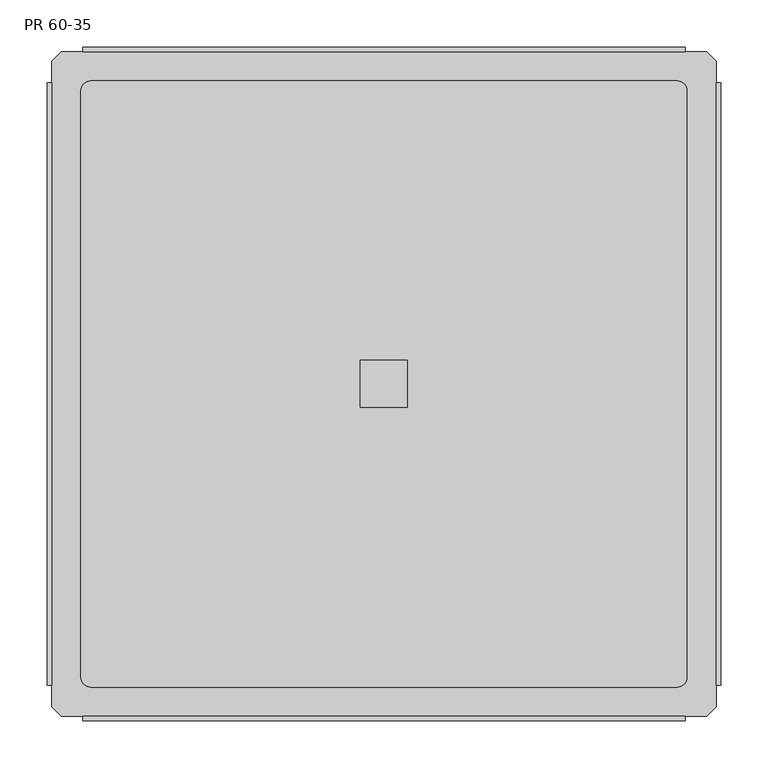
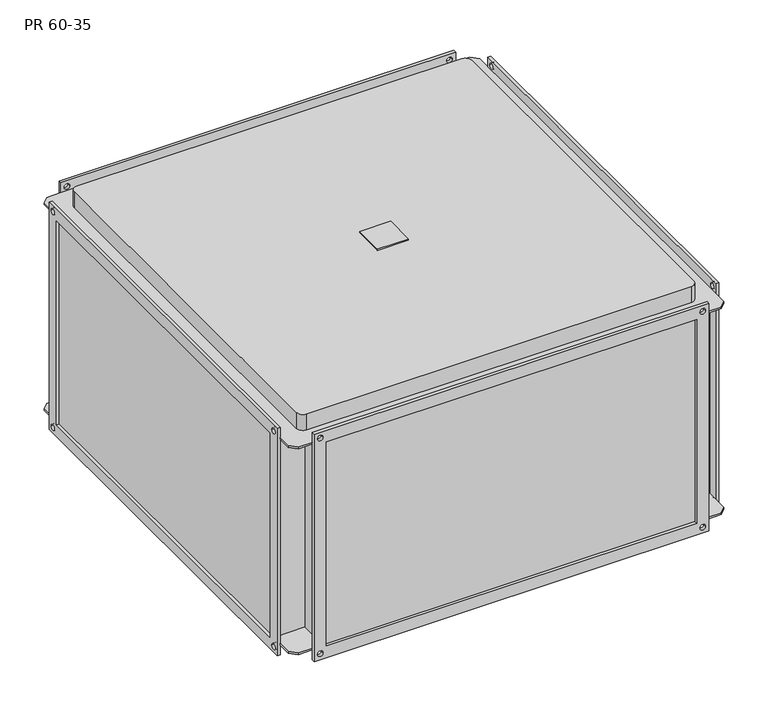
"""IFC4 building model written with IfcOpenShell, lengths in millimetres: proxy geometry, KORF_Рекуператор_Пластинчатый_PR : PR 60-35."""

from ifc_helpers import new_model, si_unit, point, frame, frame_2d, origin, place, context, project, spatial, polyline, circle_curve, trimmed, segment, composite_curve, outline, extrude, source, transform, mapped, element, save
from ifc_brep_helpers import plane_surface, cylinder_surface, revolved_surface, advanced_brep


def pr_60_35_5a58c514(model_context):
    return source(origin(), model_context, "Body", "SolidModel", [
        extrude(outline(polyline([(333.0, -25.0), (333.0, 25.0), (383.0, 25.0), (383.0, -25.0), (333.0, -25.0)])), frame((0.0, 0.0, 205.0), z_axis=(0.0, 0.0, 1.0), x_axis=(1.0, 0.0, 0.0)), (0.0, 0.0, 1.0), 2.0),
        advanced_brep(
        [(658.0, -353.0, -175.0), (658.0, -353.0, 175.0), (58.0, -353.0, 175.0), (58.0, -353.0, -175.0), (658.0, 353.0, 175.0), (658.0, 353.0, -175.0), (58.0, 353.0, -175.0), (58.0, 353.0, 175.0), (15.0, 353.0, 178.0), (5.0, 343.0, 178.0), (5.0, -343.0, 178.0), (15.0, -353.0, 178.0), (38.0, -353.0, 178.0), (678.0, -353.0, 178.0), (701.0, -353.0, 178.0), (711.0, -343.0, 178.0), (711.0, 343.0, 178.0), (701.0, 353.0, 178.0), (678.0, 353.0, 178.0), (38.0, 353.0, 178.0), (46.0, 322.0, 178.0), (670.0, 322.0, 178.0), (680.0, 312.0, 178.0), (680.0, -312.0, 178.0), (670.0, -322.0, 178.0), (46.0, -322.0, 178.0), (36.0, -312.0, 178.0), (36.0, 312.0, 178.0), (55.0, -353.0, 175.0), (55.0, -303.0, 175.0), (55.0, -303.0, -175.0), (55.0, -353.0, -175.0), (55.0, 303.0, 175.0), (55.0, 353.0, 175.0), (55.0, 353.0, -175.0), (55.0, 303.0, -175.0), (5.0, 343.0, -178.0), (15.0, 353.0, -178.0), (38.0, 353.0, -178.0), (678.0, 353.0, -178.0), (701.0, 353.0, -178.0), (711.0, 343.0, -178.0), (711.0, -343.0, -178.0), (701.0, -353.0, -178.0), (678.0, -353.0, -178.0), (38.0, -353.0, -178.0), (15.0, -353.0, -178.0), (5.0, -343.0, -178.0), (661.0, -303.0, 175.0), (661.0, -353.0, 175.0), (661.0, -353.0, -175.0), (661.0, -303.0, -175.0), (661.0, 353.0, 175.0), (661.0, 303.0, 175.0), (661.0, 303.0, -175.0), (661.0, 353.0, -175.0), (711.0, 303.0, 175.0), (711.0, 343.0, 175.0), (711.0, -343.0, 175.0), (711.0, -303.0, 175.0), (711.0, -303.0, -175.0), (711.0, -343.0, -175.0), (711.0, 343.0, -175.0), (711.0, 303.0, -175.0), (5.0, 343.0, 175.0), (5.0, 303.0, 175.0), (5.0, 303.0, -175.0), (5.0, 343.0, -175.0), (5.0, -343.0, -175.0), (5.0, -303.0, -175.0), (5.0, -303.0, 175.0), (5.0, -343.0, 175.0), (678.0, 358.0, 195.0), (678.0, 358.0, -195.0), (38.0, 358.0, -195.0), (38.0, 358.0, 195.0), (658.0, 358.0, 175.0), (58.0, 358.0, 175.0), (58.0, 358.0, -175.0), (658.0, 358.0, -175.0), (43.5, 358.0, 185.0), (52.5, 358.0, 185.0), (663.5, 358.0, 185.0), (672.5, 358.0, 185.0), (663.5, 358.0, -185.0), (672.5, 358.0, -185.0), (43.5, 358.0, -185.0), (52.5, 358.0, -185.0), (678.0, 353.0, 195.0), (38.0, 353.0, 195.0), (43.5, 353.0, 185.0), (52.5, 353.0, 185.0), (663.5, 353.0, 185.0), (672.5, 353.0, 185.0), (38.0, 353.0, -195.0), (678.0, 353.0, -195.0), (663.5, 353.0, -185.0), (672.5, 353.0, -185.0), (43.5, 353.0, -185.0), (52.5, 353.0, -185.0), (38.0, 353.0, 175.0), (38.0, 353.0, -175.0), (678.0, 353.0, 175.0), (678.0, 353.0, -175.0), (678.0, -358.0, 195.0), (38.0, -358.0, 195.0), (38.0, -358.0, -195.0), (678.0, -358.0, -195.0), (658.0, -358.0, 175.0), (658.0, -358.0, -175.0), (58.0, -358.0, -175.0), (58.0, -358.0, 175.0), (663.5, -358.0, 185.0), (672.5, -358.0, 185.0), (663.5, -358.0, -185.0), (672.5, -358.0, -185.0), (43.5, -358.0, 185.0), (52.5, -358.0, 185.0), (43.5, -358.0, -185.0), (52.5, -358.0, -185.0), (678.0, -353.0, -195.0), (38.0, -353.0, -195.0), (663.5, -353.0, -185.0), (672.5, -353.0, -185.0), (43.5, -353.0, -185.0), (52.5, -353.0, -185.0), (38.0, -353.0, 195.0), (678.0, -353.0, 195.0), (663.5, -353.0, 185.0), (672.5, -353.0, 185.0), (43.5, -353.0, 185.0), (52.5, -353.0, 185.0), (38.0, -353.0, 175.0), (38.0, -353.0, -175.0), (678.0, -353.0, 175.0), (678.0, -353.0, -175.0), (701.0, -353.0, 175.0), (15.0, 353.0, 175.0), (701.0, 353.0, 175.0), (15.0, -353.0, 175.0), (701.0, 353.0, -175.0), (15.0, -353.0, -175.0), (15.0, 353.0, -175.0), (701.0, -353.0, -175.0), (670.0, 322.0, 205.0), (46.0, 322.0, 205.0), (36.0, 312.0, 205.0), (36.0, -312.0, 205.0), (46.0, -322.0, 205.0), (670.0, -322.0, 205.0), (680.0, -312.0, 205.0), (680.0, 312.0, 205.0)],
        [
            (0, 1),
            (1, 2),
            (2, 3),
            (3, 0),
            (4, 5),
            (5, 6),
            (6, 7),
            (7, 4),
            (8, 9),
            (9, 10),
            (10, 11),
            (11, 12),
            (12, 13),
            (13, 14),
            (14, 15),
            (15, 16),
            (16, 17),
            (17, 18),
            (18, 19),
            (19, 8),
            (20, 21),
            (21, 22, circle_curve(frame((670.0, 312.0, 178.0), z_axis=(0.0, 0.0, -1.0), x_axis=(1.0, 0.0, 0.0)), 10.0)),
            (22, 23),
            (23, 24, circle_curve(frame((670.0, -312.0, 178.0), z_axis=(0.0, 0.0, -1.0), x_axis=(1.0, 0.0, 0.0)), 10.0)),
            (24, 25),
            (25, 26, circle_curve(frame((46.0, -312.0, 178.0), z_axis=(0.0, 0.0, -1.0), x_axis=(1.0, 0.0, 0.0)), 10.0)),
            (26, 27),
            (27, 20, circle_curve(frame((46.0, 312.0, 178.0), z_axis=(0.0, 0.0, -1.0), x_axis=(1.0, 0.0, 0.0)), 10.0)),
            (28, 29),
            (29, 30),
            (30, 31),
            (31, 28),
            (32, 33),
            (33, 34),
            (34, 35),
            (35, 32),
            (36, 37),
            (37, 38),
            (38, 39),
            (39, 40),
            (40, 41),
            (41, 42),
            (42, 43),
            (43, 44),
            (44, 45),
            (45, 46),
            (46, 47),
            (47, 36),
            (48, 49),
            (49, 50),
            (50, 51),
            (51, 48),
            (52, 53),
            (53, 54),
            (54, 55),
            (55, 52),
            (56, 57),
            (57, 16),
            (15, 58),
            (58, 59),
            (59, 60),
            (60, 61),
            (61, 42),
            (41, 62),
            (62, 63),
            (63, 56),
            (64, 65),
            (65, 66),
            (66, 67),
            (67, 36),
            (47, 68),
            (68, 69),
            (69, 70),
            (70, 71),
            (71, 10),
            (9, 64),
            (29, 70),
            (69, 30),
            (59, 48),
            (51, 60),
            (65, 32),
            (35, 66),
            (53, 56),
            (63, 54),
            (72, 73),
            (73, 74),
            (74, 75),
            (75, 72),
            (76, 77),
            (77, 78),
            (78, 79),
            (79, 76),
            (80, 81, circle_curve(frame((48.0, 358.0, 185.0), z_axis=(0.0, -1.0, 0.0), x_axis=(1.0, 0.0, 0.0)), 4.5)),
            (81, 80, circle_curve(frame((48.0, 358.0, 185.0), z_axis=(0.0, -1.0, 0.0), x_axis=(1.0, 0.0, 0.0)), 4.5)),
            (82, 83, circle_curve(frame((668.0, 358.0, 185.0), z_axis=(0.0, -1.0, 0.0), x_axis=(1.0, 0.0, 0.0)), 4.5)),
            (83, 82, circle_curve(frame((668.0, 358.0, 185.0), z_axis=(0.0, -1.0, 0.0), x_axis=(1.0, 0.0, 0.0)), 4.5)),
            (84, 85, circle_curve(frame((668.0, 358.0, -185.0), z_axis=(0.0, -1.0, 0.0), x_axis=(1.0, 0.0, 0.0)), 4.5)),
            (85, 84, circle_curve(frame((668.0, 358.0, -185.0), z_axis=(0.0, -1.0, 0.0), x_axis=(1.0, 0.0, 0.0)), 4.5)),
            (86, 87, circle_curve(frame((48.0, 358.0, -185.0), z_axis=(0.0, -1.0, 0.0), x_axis=(1.0, 0.0, 0.0)), 4.5)),
            (87, 86, circle_curve(frame((48.0, 358.0, -185.0), z_axis=(0.0, -1.0, 0.0), x_axis=(1.0, 0.0, 0.0)), 4.5)),
            (88, 89),
            (89, 19),
            (18, 88),
            (90, 91, circle_curve(frame((48.0, 353.0, 185.0), z_axis=(0.0, 1.0, 0.0), x_axis=(1.0, 0.0, 0.0)), 4.5)),
            (91, 90, circle_curve(frame((48.0, 353.0, 185.0), z_axis=(0.0, 1.0, 0.0), x_axis=(1.0, 0.0, 0.0)), 4.5)),
            (92, 93, circle_curve(frame((668.0, 353.0, 185.0), z_axis=(0.0, 1.0, 0.0), x_axis=(1.0, 0.0, 0.0)), 4.5)),
            (93, 92, circle_curve(frame((668.0, 353.0, 185.0), z_axis=(0.0, 1.0, 0.0), x_axis=(1.0, 0.0, 0.0)), 4.5)),
            (94, 95),
            (95, 39),
            (38, 94),
            (96, 97, circle_curve(frame((668.0, 353.0, -185.0), z_axis=(0.0, 1.0, 0.0), x_axis=(1.0, 0.0, 0.0)), 4.5)),
            (97, 96, circle_curve(frame((668.0, 353.0, -185.0), z_axis=(0.0, 1.0, 0.0), x_axis=(1.0, 0.0, 0.0)), 4.5)),
            (98, 99, circle_curve(frame((48.0, 353.0, -185.0), z_axis=(0.0, 1.0, 0.0), x_axis=(1.0, 0.0, 0.0)), 4.5)),
            (99, 98, circle_curve(frame((48.0, 353.0, -185.0), z_axis=(0.0, 1.0, 0.0), x_axis=(1.0, 0.0, 0.0)), 4.5)),
            (33, 100),
            (100, 101),
            (101, 34),
            (102, 52),
            (55, 103),
            (103, 102),
            (75, 89),
            (88, 72),
            (74, 94),
            (38, 101),
            (100, 19),
            (73, 95),
            (18, 102),
            (103, 39),
            (79, 5),
            (4, 76),
            (78, 6),
            (77, 7),
            (104, 105),
            (105, 106),
            (106, 107),
            (107, 104),
            (108, 109),
            (109, 110),
            (110, 111),
            (111, 108),
            (112, 113, circle_curve(frame((668.0, -358.0, 185.0), z_axis=(0.0, 1.0, 0.0), x_axis=(1.0, 0.0, 0.0)), 4.5)),
            (113, 112, circle_curve(frame((668.0, -358.0, 185.0), z_axis=(0.0, 1.0, 0.0), x_axis=(1.0, 0.0, 0.0)), 4.5)),
            (114, 115, circle_curve(frame((668.0, -358.0, -185.0), z_axis=(0.0, 1.0, 0.0), x_axis=(1.0, 0.0, 0.0)), 4.5)),
            (115, 114, circle_curve(frame((668.0, -358.0, -185.0), z_axis=(0.0, 1.0, 0.0), x_axis=(1.0, 0.0, 0.0)), 4.5)),
            (116, 117, circle_curve(frame((48.0, -358.0, 185.0), z_axis=(0.0, 1.0, 0.0), x_axis=(1.0, 0.0, 0.0)), 4.5)),
            (117, 116, circle_curve(frame((48.0, -358.0, 185.0), z_axis=(0.0, 1.0, 0.0), x_axis=(1.0, 0.0, 0.0)), 4.5)),
            (118, 119, circle_curve(frame((48.0, -358.0, -185.0), z_axis=(0.0, 1.0, 0.0), x_axis=(1.0, 0.0, 0.0)), 4.5)),
            (119, 118, circle_curve(frame((48.0, -358.0, -185.0), z_axis=(0.0, 1.0, 0.0), x_axis=(1.0, 0.0, 0.0)), 4.5)),
            (120, 121),
            (121, 45),
            (44, 120),
            (122, 123, circle_curve(frame((668.0, -353.0, -185.0), z_axis=(0.0, -1.0, 0.0), x_axis=(1.0, 0.0, 0.0)), 4.5)),
            (123, 122, circle_curve(frame((668.0, -353.0, -185.0), z_axis=(0.0, -1.0, 0.0), x_axis=(1.0, 0.0, 0.0)), 4.5)),
            (124, 125, circle_curve(frame((48.0, -353.0, -185.0), z_axis=(0.0, -1.0, 0.0), x_axis=(1.0, 0.0, 0.0)), 4.5)),
            (125, 124, circle_curve(frame((48.0, -353.0, -185.0), z_axis=(0.0, -1.0, 0.0), x_axis=(1.0, 0.0, 0.0)), 4.5)),
            (126, 127),
            (127, 13),
            (12, 126),
            (128, 129, circle_curve(frame((668.0, -353.0, 185.0), z_axis=(0.0, -1.0, 0.0), x_axis=(1.0, 0.0, 0.0)), 4.5)),
            (129, 128, circle_curve(frame((668.0, -353.0, 185.0), z_axis=(0.0, -1.0, 0.0), x_axis=(1.0, 0.0, 0.0)), 4.5)),
            (130, 131, circle_curve(frame((48.0, -353.0, 185.0), z_axis=(0.0, -1.0, 0.0), x_axis=(1.0, 0.0, 0.0)), 4.5)),
            (131, 130, circle_curve(frame((48.0, -353.0, 185.0), z_axis=(0.0, -1.0, 0.0), x_axis=(1.0, 0.0, 0.0)), 4.5)),
            (132, 28),
            (31, 133),
            (133, 132),
            (49, 134),
            (134, 135),
            (135, 50),
            (104, 127),
            (126, 105),
            (12, 132),
            (133, 45),
            (121, 106),
            (120, 107),
            (44, 135),
            (134, 13),
            (108, 1),
            (0, 109),
            (3, 110),
            (2, 111),
            (81, 91),
            (90, 80),
            (83, 93),
            (92, 82),
            (85, 97),
            (96, 84),
            (87, 99),
            (98, 86),
            (112, 128),
            (129, 113),
            (114, 122),
            (123, 115),
            (116, 130),
            (131, 117),
            (118, 124),
            (125, 119),
            (58, 136),
            (136, 134),
            (64, 137),
            (137, 100),
            (138, 57),
            (102, 138),
            (139, 71),
            (132, 139),
            (137, 8),
            (138, 17),
            (139, 11),
            (136, 14),
            (62, 140),
            (140, 103),
            (68, 141),
            (141, 133),
            (142, 67),
            (101, 142),
            (143, 61),
            (135, 143),
            (37, 142),
            (40, 140),
            (46, 141),
            (43, 143),
            (144, 145),
            (145, 146, circle_curve(frame((46.0, 312.0, 205.0), z_axis=(0.0, 0.0, 1.0), x_axis=(1.0, 0.0, 0.0)), 10.0)),
            (146, 147),
            (147, 148, circle_curve(frame((46.0, -312.0, 205.0), z_axis=(0.0, 0.0, 1.0), x_axis=(1.0, 0.0, 0.0)), 10.0)),
            (148, 149),
            (149, 150, circle_curve(frame((670.0, -312.0, 205.0), z_axis=(0.0, 0.0, 1.0), x_axis=(1.0, 0.0, 0.0)), 10.0)),
            (150, 151),
            (151, 144, circle_curve(frame((670.0, 312.0, 205.0), z_axis=(0.0, 0.0, 1.0), x_axis=(1.0, 0.0, 0.0)), 10.0)),
            (144, 21),
            (20, 145),
            (27, 146),
            (26, 147),
            (25, 148),
            (24, 149),
            (23, 150),
            (22, 151),
        ],
        [
            plane_surface(frame((55.0, -353.0, 178.0), z_axis=(0.0, -1.0, 0.0), x_axis=(-1.0, 0.0, 0.0))),
            plane_surface(frame((55.0, 353.0, 178.0), z_axis=(0.0, 1.0, 0.0), x_axis=(1.0, 0.0, 0.0))),
            plane_surface(frame((661.0, -353.0, 178.0), z_axis=(0.0, 0.0, 1.0), x_axis=(0.0, 1.0, 0.0))),
            plane_surface(frame((55.0, -353.0, 178.0), z_axis=(-1.0, 0.0, 0.0), x_axis=(0.0, 1.0, 0.0))),
            plane_surface(frame((55.0, -353.0, -178.0), z_axis=(0.0, 0.0, -1.0), x_axis=(0.0, 1.0, 0.0))),
            plane_surface(frame((661.0, -353.0, -178.0), z_axis=(1.0, 0.0, 0.0), x_axis=(0.0, 1.0, 0.0))),
            plane_surface(frame((711.0, -303.0, 178.0), z_axis=(1.0, 0.0, 0.0), x_axis=(0.0, 0.0, -1.0))),
            plane_surface(frame((5.0, -303.0, 178.0), z_axis=(-1.0, 0.0, 0.0), x_axis=(0.0, 0.0, 1.0))),
            plane_surface(frame((711.0, -303.0, 178.0), z_axis=(0.0, -1.0, 0.0), x_axis=(-1.0, 0.0, 0.0))),
            plane_surface(frame((711.0, 303.0, -178.0), z_axis=(0.0, 1.0, 0.0), x_axis=(-1.0, 0.0, 0.0))),
            plane_surface(frame((38.0, 358.0, 195.0), z_axis=(0.0, 1.0, 0.0), x_axis=(1.0, 0.0, 0.0))),
            plane_surface(frame((38.0, 353.0, 195.0), z_axis=(0.0, -1.0, 0.0), x_axis=(-1.0, 0.0, 0.0))),
            plane_surface(frame((678.0, 353.0, 195.0), z_axis=(0.0, 0.0, 1.0), x_axis=(0.0, 1.0, 0.0))),
            plane_surface(frame((38.0, 353.0, 195.0), z_axis=(-1.0, 0.0, 0.0), x_axis=(0.0, 1.0, 0.0))),
            plane_surface(frame((38.0, 353.0, -195.0), z_axis=(0.0, 0.0, -1.0), x_axis=(0.0, 1.0, 0.0))),
            plane_surface(frame((678.0, 353.0, -195.0), z_axis=(1.0, 0.0, 0.0), x_axis=(0.0, 1.0, 0.0))),
            plane_surface(frame((658.0, 353.0, 175.0), z_axis=(-1.0, 0.0, 0.0), x_axis=(0.0, 1.0, 0.0))),
            plane_surface(frame((658.0, 353.0, -175.0), z_axis=(0.0, 0.0, 1.0), x_axis=(0.0, 1.0, 0.0))),
            plane_surface(frame((58.0, 353.0, -175.0), z_axis=(1.0, 0.0, 0.0), x_axis=(0.0, 1.0, 0.0))),
            plane_surface(frame((58.0, 353.0, 175.0), z_axis=(0.0, 0.0, -1.0), x_axis=(0.0, 1.0, 0.0))),
            plane_surface(frame((38.0, -358.0, 195.0), z_axis=(0.0, -1.0, 0.0), x_axis=(-1.0, 0.0, 0.0))),
            plane_surface(frame((38.0, -353.0, 195.0), z_axis=(0.0, 1.0, 0.0), x_axis=(1.0, 0.0, 0.0))),
            plane_surface(frame((678.0, -358.0, 195.0), z_axis=(0.0, 0.0, 1.0), x_axis=(0.0, 1.0, 0.0))),
            plane_surface(frame((38.0, -358.0, 195.0), z_axis=(-1.0, 0.0, 0.0), x_axis=(0.0, 1.0, 0.0))),
            plane_surface(frame((38.0, -358.0, -195.0), z_axis=(0.0, 0.0, -1.0), x_axis=(0.0, 1.0, 0.0))),
            plane_surface(frame((678.0, -358.0, -195.0), z_axis=(1.0, 0.0, 0.0), x_axis=(0.0, 1.0, 0.0))),
            plane_surface(frame((658.0, -358.0, 175.0), z_axis=(-1.0, 0.0, 0.0), x_axis=(0.0, 1.0, 0.0))),
            plane_surface(frame((658.0, -358.0, -175.0), z_axis=(0.0, 0.0, 1.0), x_axis=(0.0, 1.0, 0.0))),
            plane_surface(frame((58.0, -358.0, -175.0), z_axis=(1.0, 0.0, 0.0), x_axis=(0.0, 1.0, 0.0))),
            plane_surface(frame((58.0, -358.0, 175.0), z_axis=(0.0, 0.0, -1.0), x_axis=(0.0, 1.0, 0.0))),
            revolved_surface(polyline([(52.5, 358.0, 185.0), (52.5, 353.0, 185.0)]), (48.0, 0.0, 185.0), (0.0, 1.0, 0.0)),
            revolved_surface(polyline([(672.5, 358.0, 185.0), (672.5, 353.0, 185.0)]), (668.0, 0.0, 185.0), (0.0, 1.0, 0.0)),
            revolved_surface(polyline([(672.5, 358.0, -185.0), (672.5, 353.0, -185.0)]), (668.0, 0.0, -185.0), (0.0, 1.0, 0.0)),
            revolved_surface(polyline([(52.5, 358.0, -185.0), (52.5, 353.0, -185.0)]), (48.0, 0.0, -185.0), (0.0, 1.0, 0.0)),
            revolved_surface(polyline([(672.5, -353.0, 185.0), (672.5, -358.0, 185.0)]), (668.0, 0.0, 185.0), (0.0, 1.0, 0.0)),
            revolved_surface(polyline([(672.5, -353.0, -185.0), (672.5, -358.0, -185.0)]), (668.0, 0.0, -185.0), (0.0, 1.0, 0.0)),
            revolved_surface(polyline([(52.5, -353.0, 185.0), (52.5, -358.0, 185.0)]), (48.0, 0.0, 185.0), (0.0, 1.0, 0.0)),
            revolved_surface(polyline([(52.5, -353.0, -185.0), (52.5, -358.0, -185.0)]), (48.0, 0.0, -185.0), (0.0, 1.0, 0.0)),
            plane_surface(frame((55.0, 303.0, 175.0), z_axis=(0.0, 0.0, -1.0), x_axis=(0.0, -1.0, 0.0))),
            plane_surface(frame((55.0, 353.0, 178.0), z_axis=(0.0, 1.0, 0.0), x_axis=(0.0, 0.0, -1.0))),
            plane_surface(frame((15.0, 353.0, 178.0), z_axis=(-0.7071067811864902, 0.707106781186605, 0.0), x_axis=(0.0, 0.0, -1.0))),
            plane_surface(frame((711.0, 343.0, 178.0), z_axis=(0.7071067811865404, 0.7071067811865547, 0.0), x_axis=(0.0, 0.0, -1.0))),
            plane_surface(frame((701.0, 353.0, 178.0), z_axis=(0.0, 1.0, 0.0), x_axis=(0.0, 0.0, -1.0))),
            plane_surface(frame((5.0, -343.0, 178.0), z_axis=(-0.7071067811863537, -0.7071067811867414, 0.0), x_axis=(0.0, 0.0, -1.0))),
            plane_surface(frame((15.0, -353.0, 178.0), z_axis=(0.0, -1.0, 0.0), x_axis=(0.0, 0.0, -1.0))),
            plane_surface(frame((661.0, -353.0, 178.0), z_axis=(0.0, -1.0, 0.0), x_axis=(0.0, 0.0, -1.0))),
            plane_surface(frame((701.0, -353.0, 178.0), z_axis=(0.707106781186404, -0.7071067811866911, 0.0), x_axis=(0.0, 0.0, -1.0))),
            plane_surface(frame((55.0, 303.0, -175.0), z_axis=(0.0, 0.0, 1.0), x_axis=(0.0, 1.0, 0.0))),
            plane_surface(frame((55.0, 353.0, -175.0), z_axis=(0.0, 1.0, 0.0), x_axis=(0.0, 0.0, -1.0))),
            plane_surface(frame((15.0, 353.0, -175.0), z_axis=(-0.7071067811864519, 0.7071067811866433, 0.0), x_axis=(0.0, 0.0, -1.0))),
            plane_surface(frame((711.0, 343.0, -175.0), z_axis=(0.7071067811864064, 0.7071067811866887, 0.0), x_axis=(0.0, 0.0, -1.0))),
            plane_surface(frame((701.0, 353.0, -175.0), z_axis=(0.0, 1.0, 0.0), x_axis=(0.0, 0.0, -1.0))),
            plane_surface(frame((5.0, -343.0, -175.0), z_axis=(-0.7071067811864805, -0.7071067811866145, 0.0), x_axis=(0.0, 0.0, -1.0))),
            plane_surface(frame((15.0, -353.0, -175.0), z_axis=(0.0, -1.0, 0.0), x_axis=(0.0, 0.0, -1.0))),
            plane_surface(frame((661.0, -353.0, -175.0), z_axis=(0.0, -1.0, 0.0), x_axis=(0.0, 0.0, -1.0))),
            plane_surface(frame((701.0, -353.0, -175.0), z_axis=(0.7071067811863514, -0.7071067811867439, 0.0), x_axis=(0.0, 0.0, -1.0))),
            plane_surface(frame((46.0, 322.0, 205.0), z_axis=(0.0, 0.0, 1.0), x_axis=(-1.0, 0.0, 0.0))),
            plane_surface(frame((670.0, 322.0, 205.0), z_axis=(0.0, 1.0, 0.0), x_axis=(0.0, 0.0, -1.0))),
            cylinder_surface(frame((46.0, 312.0, 178.0), z_axis=(0.0, 0.0, 1.0), x_axis=(1.0, 0.0, 0.0)), 10.0),
            plane_surface(frame((36.0, 312.0, 205.0), z_axis=(-1.0, 0.0, 0.0), x_axis=(0.0, 0.0, -1.0))),
            cylinder_surface(frame((46.0, -312.0, 178.0), z_axis=(0.0, 0.0, 1.0), x_axis=(1.0, 0.0, 0.0)), 10.0),
            plane_surface(frame((46.0, -322.0, 205.0), z_axis=(0.0, -1.0, 0.0), x_axis=(0.0, 0.0, -1.0))),
            cylinder_surface(frame((670.0, -312.0, 178.0), z_axis=(0.0, 0.0, 1.0), x_axis=(1.0, 0.0, 0.0)), 10.0),
            plane_surface(frame((680.0, -312.0, 205.0), z_axis=(1.0, 0.0, 0.0), x_axis=(0.0, 0.0, -1.0))),
            cylinder_surface(frame((670.0, 312.0, 178.0), z_axis=(0.0, 0.0, 1.0), x_axis=(1.0, 0.0, 0.0)), 10.0),
        ],
        [
            (0, [[1, 2, 3, 4]]),
            (1, [[5, 6, 7, 8]]),
            (2, [[9, 10, 11, 12, 13, 14, 15, 16, 17, 18, 19, 20], [21, 22, 23, 24, 25, 26, 27, 28]]),
            (3, [[29, 30, 31, 32]]),
            (3, [[33, 34, 35, 36]]),
            (4, [[37, 38, 39, 40, 41, 42, 43, 44, 45, 46, 47, 48]]),
            (5, [[49, 50, 51, 52]]),
            (5, [[53, 54, 55, 56]]),
            (6, [[57, 58, -16, 59, 60, 61, 62, 63, -42, 64, 65, 66]]),
            (7, [[67, 68, 69, 70, -48, 71, 72, 73, 74, 75, -10, 76]]),
            (8, [[77, -73, 78, -30]]),
            (8, [[79, -52, 80, -61]]),
            (9, [[81, -36, 82, -68]]),
            (9, [[83, -66, 84, -54]]),
            (10, [[85, 86, 87, 88], [89, 90, 91, 92], [93, 94], [95, 96], [97, 98], [99, 100]]),
            (11, [[101, 102, -19, 103], [104, 105], [106, 107]]),
            (11, [[108, 109, -39, 110], [111, 112], [113, 114]]),
            (11, [[115, 116, 117, -34]]),
            (11, [[118, -56, 119, 120]]),
            (12, [[-88, 121, -101, 122]]),
            (13, [[-87, 123, -110, 124, -116, 125, -102, -121]]),
            (14, [[-86, 126, -108, -123]]),
            (15, [[-85, -122, -103, 127, -120, 128, -109, -126]]),
            (16, [[-92, 129, -5, 130]]),
            (17, [[-91, 131, -6, -129]]),
            (18, [[-90, 132, -7, -131]]),
            (19, [[-89, -130, -8, -132]]),
            (20, [[133, 134, 135, 136], [137, 138, 139, 140], [141, 142], [143, 144], [145, 146], [147, 148]]),
            (21, [[149, 150, -45, 151], [152, 153], [154, 155]]),
            (21, [[156, 157, -13, 158], [159, 160], [161, 162]]),
            (21, [[163, -32, 164, 165]]),
            (21, [[166, 167, 168, -50]]),
            (22, [[-133, 169, -156, 170]]),
            (23, [[-134, -170, -158, 171, -165, 172, -150, 173]]),
            (24, [[-135, -173, -149, 174]]),
            (25, [[-136, -174, -151, 175, -167, 176, -157, -169]]),
            (26, [[-137, 177, -1, 178]]),
            (27, [[-138, -178, -4, 179]]),
            (28, [[-139, -179, -3, 180]]),
            (29, [[-140, -180, -2, -177]]),
            (30, [[-94, 181, -104, 182]]),
            (30, [[-93, -182, -105, -181]]),
            (31, [[-96, 183, -106, 184]]),
            (31, [[-95, -184, -107, -183]]),
            (32, [[-98, 185, -111, 186]]),
            (32, [[-97, -186, -112, -185]]),
            (33, [[-100, 187, -113, 188]]),
            (33, [[-99, -188, -114, -187]]),
            (34, [[-141, 189, -160, 190]]),
            (34, [[-142, -190, -159, -189]]),
            (35, [[-143, 191, -153, 192]]),
            (35, [[-144, -192, -152, -191]]),
            (36, [[-145, 193, -162, 194]]),
            (36, [[-146, -194, -161, -193]]),
            (37, [[-147, 195, -155, 196]]),
            (37, [[-148, -196, -154, -195]]),
            (38, [[-60, 197, 198, -166, -49, -79]]),
            (38, [[-67, 199, 200, -115, -33, -81]]),
            (38, [[201, -57, -83, -53, -118, 202]]),
            (38, [[203, -74, -77, -29, -163, 204]]),
            (39, [[205, -20, -125, -200]]),
            (40, [[-199, -76, -9, -205]]),
            (41, [[-201, 206, -17, -58]]),
            (42, [[-206, -202, -127, -18]]),
            (43, [[-203, 207, -11, -75]]),
            (44, [[-207, -204, -171, -12]]),
            (45, [[208, -14, -176, -198]]),
            (46, [[-197, -59, -15, -208]]),
            (47, [[-65, 209, 210, -119, -55, -84]]),
            (47, [[-72, 211, 212, -164, -31, -78]]),
            (47, [[213, -69, -82, -35, -117, 214]]),
            (47, [[215, -62, -80, -51, -168, 216]]),
            (48, [[217, -214, -124, -38]]),
            (49, [[-213, -217, -37, -70]]),
            (50, [[-209, -64, -41, 218]]),
            (51, [[-218, -40, -128, -210]]),
            (52, [[-211, -71, -47, 219]]),
            (53, [[-219, -46, -172, -212]]),
            (54, [[220, -216, -175, -44]]),
            (55, [[-215, -220, -43, -63]]),
            (56, [[221, 222, 223, 224, 225, 226, 227, 228]]),
            (57, [[-221, 229, -21, 230]]),
            (58, [[-222, -230, -28, 231]]),
            (59, [[-223, -231, -27, 232]]),
            (60, [[-224, -232, -26, 233]]),
            (61, [[-225, -233, -25, 234]]),
            (62, [[-226, -234, -24, 235]]),
            (63, [[-227, -235, -23, 236]]),
            (64, [[-228, -236, -22, -229]]),
        ],
    ),
        extrude(outline(polyline([(-320.0, 195.0), (320.0, 195.0), (320.0, -195.0), (-320.0, -195.0), (-320.0, 195.0)]), holes=[polyline([(-300.0, 175.0), (-300.0, -175.0), (300.0, -175.0), (300.0, 175.0), (-300.0, 175.0)]), composite_curve([segment(trimmed(circle_curve(frame_2d((310.0, 185.0)), 4.5), [point((305.5, 185.0))], [point((314.5, 185.0))], True, "CARTESIAN"), True, "CONTINUOUS"), segment(trimmed(circle_curve(frame_2d((310.0, 185.0)), 4.5), [point((314.5, 185.0))], [point((305.5, 185.0))], True, "CARTESIAN"), True, "CONTINUOUS")], self_intersect=False), composite_curve([segment(trimmed(circle_curve(frame_2d((-310.0, 185.0)), 4.5), [point((-314.5, 185.0))], [point((-305.5, 185.0))], True, "CARTESIAN"), True, "CONTINUOUS"), segment(trimmed(circle_curve(frame_2d((-310.0, 185.0)), 4.5), [point((-305.5, 185.0))], [point((-314.5, 185.0))], True, "CARTESIAN"), True, "CONTINUOUS")], self_intersect=False), composite_curve([segment(trimmed(circle_curve(frame_2d((-310.0, -185.0)), 4.5), [point((-314.5, -185.0))], [point((-305.5, -185.0))], True, "CARTESIAN"), True, "CONTINUOUS"), segment(trimmed(circle_curve(frame_2d((-310.0, -185.0)), 4.5), [point((-305.5, -185.0))], [point((-314.5, -185.0))], True, "CARTESIAN"), True, "CONTINUOUS")], self_intersect=False), composite_curve([segment(trimmed(circle_curve(frame_2d((310.0, -185.0)), 4.5), [point((305.5, -185.0))], [point((314.5, -185.0))], True, "CARTESIAN"), True, "CONTINUOUS"), segment(trimmed(circle_curve(frame_2d((310.0, -185.0)), 4.5), [point((314.5, -185.0))], [point((305.5, -185.0))], True, "CARTESIAN"), True, "CONTINUOUS")], self_intersect=False)]), frame((711.0, 0.0, 0.0), z_axis=(1.0, 0.0, 0.0), x_axis=(0.0, 1.0, 0.0)), (0.0, 0.0, 1.0), 5.0),
        advanced_brep(
        [(0.0, -320.0, 195.0), (0.0, 320.0, 195.0), (0.0, 320.0, -195.0), (0.0, -320.0, -195.0), (0.0, -300.0, 175.0), (0.0, -300.0, -175.0), (0.0, 300.0, -175.0), (0.0, 300.0, 175.0), (0.0, 305.5, 185.0), (0.0, 314.5, 185.0), (0.0, -314.5, 185.0), (0.0, -305.5, 185.0), (0.0, -314.5, -185.0), (0.0, -305.5, -185.0), (0.0, 305.5, -185.0), (0.0, 314.5, -185.0), (5.0, -320.0, 195.0), (5.0, -320.0, -195.0), (5.0, 320.0, -195.0), (5.0, 320.0, 195.0), (5.0, 314.5, 185.0), (5.0, 305.5, 185.0), (5.0, -305.5, 185.0), (5.0, -314.5, 185.0), (5.0, -305.5, -185.0), (5.0, -314.5, -185.0), (5.0, 314.5, -185.0), (5.0, 305.5, -185.0), (5.0, -300.0, -175.0), (5.0, -300.0, 175.0), (5.0, 300.0, 175.0), (5.0, 300.0, -175.0), (5.0, 300.0, 175.0), (5.0, -300.0, 175.0), (5.0, 300.0, -175.0), (5.0, -300.0, -175.0), (711.0, -300.0, 175.0), (711.0, -300.0, -175.0), (711.0, 300.0, 175.0), (711.0, 300.0, -175.0)],
        [
            (0, 1),
            (1, 2),
            (2, 3),
            (3, 0),
            (4, 5),
            (5, 6),
            (6, 7),
            (7, 4),
            (8, 9, circle_curve(frame((0.0, 310.0, 185.0), z_axis=(1.0, 0.0, 0.0), x_axis=(0.0, 1.0, 0.0)), 4.5)),
            (9, 8, circle_curve(frame((0.0, 310.0, 185.0), z_axis=(1.0, 0.0, 0.0), x_axis=(0.0, 1.0, 0.0)), 4.5)),
            (10, 11, circle_curve(frame((0.0, -310.0, 185.0), z_axis=(1.0, 0.0, 0.0), x_axis=(0.0, 1.0, 0.0)), 4.5)),
            (11, 10, circle_curve(frame((0.0, -310.0, 185.0), z_axis=(1.0, 0.0, 0.0), x_axis=(0.0, 1.0, 0.0)), 4.5)),
            (12, 13, circle_curve(frame((0.0, -310.0, -185.0), z_axis=(1.0, 0.0, 0.0), x_axis=(0.0, 1.0, 0.0)), 4.5)),
            (13, 12, circle_curve(frame((0.0, -310.0, -185.0), z_axis=(1.0, 0.0, 0.0), x_axis=(0.0, 1.0, 0.0)), 4.5)),
            (14, 15, circle_curve(frame((0.0, 310.0, -185.0), z_axis=(1.0, 0.0, 0.0), x_axis=(0.0, 1.0, 0.0)), 4.5)),
            (15, 14, circle_curve(frame((0.0, 310.0, -185.0), z_axis=(1.0, 0.0, 0.0), x_axis=(0.0, 1.0, 0.0)), 4.5)),
            (16, 17),
            (17, 18),
            (18, 19),
            (19, 16),
            (20, 21, circle_curve(frame((5.0, 310.0, 185.0), z_axis=(-1.0, 0.0, 0.0), x_axis=(0.0, 1.0, 0.0)), 4.5)),
            (21, 20, circle_curve(frame((5.0, 310.0, 185.0), z_axis=(-1.0, 0.0, 0.0), x_axis=(0.0, 1.0, 0.0)), 4.5)),
            (22, 23, circle_curve(frame((5.0, -310.0, 185.0), z_axis=(-1.0, 0.0, 0.0), x_axis=(0.0, 1.0, 0.0)), 4.5)),
            (23, 22, circle_curve(frame((5.0, -310.0, 185.0), z_axis=(-1.0, 0.0, 0.0), x_axis=(0.0, 1.0, 0.0)), 4.5)),
            (24, 25, circle_curve(frame((5.0, -310.0, -185.0), z_axis=(-1.0, 0.0, 0.0), x_axis=(0.0, 1.0, 0.0)), 4.5)),
            (25, 24, circle_curve(frame((5.0, -310.0, -185.0), z_axis=(-1.0, 0.0, 0.0), x_axis=(0.0, 1.0, 0.0)), 4.5)),
            (26, 27, circle_curve(frame((5.0, 310.0, -185.0), z_axis=(-1.0, 0.0, 0.0), x_axis=(0.0, 1.0, 0.0)), 4.5)),
            (27, 26, circle_curve(frame((5.0, 310.0, -185.0), z_axis=(-1.0, 0.0, 0.0), x_axis=(0.0, 1.0, 0.0)), 4.5)),
            (28, 29),
            (29, 30),
            (30, 31),
            (31, 28),
            (3, 17),
            (16, 0),
            (2, 18),
            (1, 19),
            (7, 32),
            (32, 33),
            (33, 4),
            (6, 34),
            (34, 32),
            (5, 35),
            (35, 34),
            (33, 35),
            (20, 9),
            (8, 21),
            (22, 11),
            (10, 23),
            (24, 13),
            (12, 25),
            (26, 15),
            (14, 27),
            (36, 29),
            (28, 37),
            (37, 36),
            (38, 39),
            (39, 31),
            (30, 38),
            (36, 38),
            (39, 37),
        ],
        [
            plane_surface(frame((0.0, -320.0, 195.0), z_axis=(-1.0, 0.0, 0.0), x_axis=(0.0, 0.0, 1.0))),
            plane_surface(frame((5.0, -320.0, 195.0), z_axis=(1.0, 0.0, 0.0), x_axis=(0.0, 0.0, -1.0))),
            plane_surface(frame((5.0, -320.0, 195.0), z_axis=(0.0, -1.0, 0.0), x_axis=(-1.0, 0.0, 0.0))),
            plane_surface(frame((5.0, -320.0, -195.0), z_axis=(0.0, 0.0, -1.0), x_axis=(-1.0, 0.0, 0.0))),
            plane_surface(frame((5.0, 320.0, -195.0), z_axis=(0.0, 1.0, 0.0), x_axis=(-1.0, 0.0, 0.0))),
            plane_surface(frame((5.0, 320.0, 195.0), z_axis=(0.0, 0.0, 1.0), x_axis=(-1.0, 0.0, 0.0))),
            plane_surface(frame((5.0, -300.0, 175.0), z_axis=(0.0, 0.0, -1.0), x_axis=(-1.0, 0.0, 0.0))),
            plane_surface(frame((5.0, 300.0, 175.0), z_axis=(0.0, -1.0, 0.0), x_axis=(-1.0, 0.0, 0.0))),
            plane_surface(frame((5.0, 300.0, -175.0), z_axis=(0.0, 0.0, 1.0), x_axis=(-1.0, 0.0, 0.0))),
            plane_surface(frame((5.0, -300.0, -175.0), z_axis=(0.0, 1.0, 0.0), x_axis=(-1.0, 0.0, 0.0))),
            revolved_surface(polyline([(5.0, 314.5, 185.0), (0.0, 314.5, 185.0)]), (0.0, 310.0, 185.0), (1.0, 0.0, 0.0)),
            revolved_surface(polyline([(5.0, -305.5, 185.0), (0.0, -305.5, 185.0)]), (0.0, -310.0, 185.0), (1.0, 0.0, 0.0)),
            revolved_surface(polyline([(5.0, -305.5, -185.0), (0.0, -305.5, -185.0)]), (0.0, -310.0, -185.0), (1.0, 0.0, 0.0)),
            revolved_surface(polyline([(5.0, 314.5, -185.0), (0.0, 314.5, -185.0)]), (0.0, 310.0, -185.0), (1.0, 0.0, 0.0)),
            plane_surface(frame((5.0, -300.0, 175.0), z_axis=(0.0, -1.0, 0.0), x_axis=(-1.0, 0.0, 0.0))),
            plane_surface(frame((5.0, 300.0, 175.0), z_axis=(0.0, 1.0, 0.0), x_axis=(1.0, 0.0, 0.0))),
            plane_surface(frame((711.0, -300.0, 175.0), z_axis=(0.0, 0.0, 1.0), x_axis=(0.0, 1.0, 0.0))),
            plane_surface(frame((5.0, -300.0, 175.0), z_axis=(-1.0, 0.0, 0.0), x_axis=(0.0, 1.0, 0.0))),
            plane_surface(frame((5.0, -300.0, -175.0), z_axis=(0.0, 0.0, -1.0), x_axis=(0.0, 1.0, 0.0))),
            plane_surface(frame((711.0, -300.0, -175.0), z_axis=(1.0, 0.0, 0.0), x_axis=(0.0, 1.0, 0.0))),
        ],
        [
            (0, [[1, 2, 3, 4], [5, 6, 7, 8], [9, 10], [11, 12], [13, 14], [15, 16]]),
            (1, [[17, 18, 19, 20], [21, 22], [23, 24], [25, 26], [27, 28], [29, 30, 31, 32]]),
            (2, [[-4, 33, -17, 34]]),
            (3, [[-3, 35, -18, -33]]),
            (4, [[-2, 36, -19, -35]]),
            (5, [[-1, -34, -20, -36]]),
            (6, [[-8, 37, 38, 39]]),
            (7, [[-7, 40, 41, -37]]),
            (8, [[-6, 42, 43, -40]]),
            (9, [[-5, -39, 44, -42]]),
            (10, [[45, -9, 46, -21]]),
            (10, [[-45, -22, -46, -10]]),
            (11, [[47, -11, 48, -23]]),
            (11, [[-47, -24, -48, -12]]),
            (12, [[49, -13, 50, -25]]),
            (12, [[-49, -26, -50, -14]]),
            (13, [[51, -15, 52, -27]]),
            (13, [[-51, -28, -52, -16]]),
            (14, [[53, -29, 54, 55]]),
            (15, [[56, 57, -31, 58]]),
            (16, [[-53, 59, -58, -30]]),
            (17, [[-38, -41, -43, -44]]),
            (18, [[-54, -32, -57, 60]]),
            (19, [[-55, -60, -56, -59]]),
        ],
    ),
    ])


if __name__ == "__main__":
    model = new_model("IFC4")
    model_context = context("Model", 3, world=origin())
    ifc_project = project(units=[si_unit("LENGTHUNIT", "METRE", prefix="MILLI")], contexts=[model_context])
    site = spatial("IfcSite", under=ifc_project)
    building = spatial("IfcBuilding", under=site)
    placement = place(None, origin())
    pr_60_35_shape = pr_60_35_5a58c514(model_context)
    element("IfcBuildingElementProxy", 1, Name="KORF_Рекуператор_Пластинчатый_PR : PR 60-35", ObjectType="KORF_Рекуператор_Пластинчатый_PR : PR 60-35", at=placement, inside=building, context=model_context, shape_type="MappedRepresentation", body=[
        mapped(pr_60_35_shape, transform((0.0, 0.0, 0.0), x_axis=(1.0, 0.0, 0.0), y_axis=(0.0, 1.0, 0.0), z_axis=(0.0, 0.0, 1.0))),
    ])
    save(model, "model.ifc")
